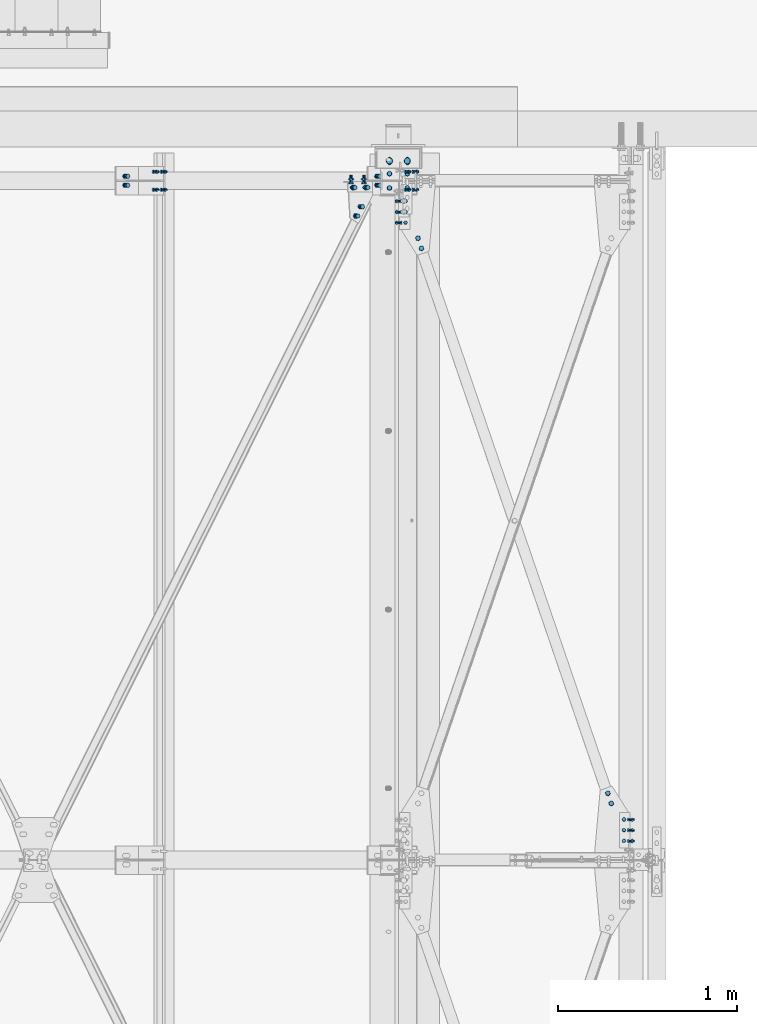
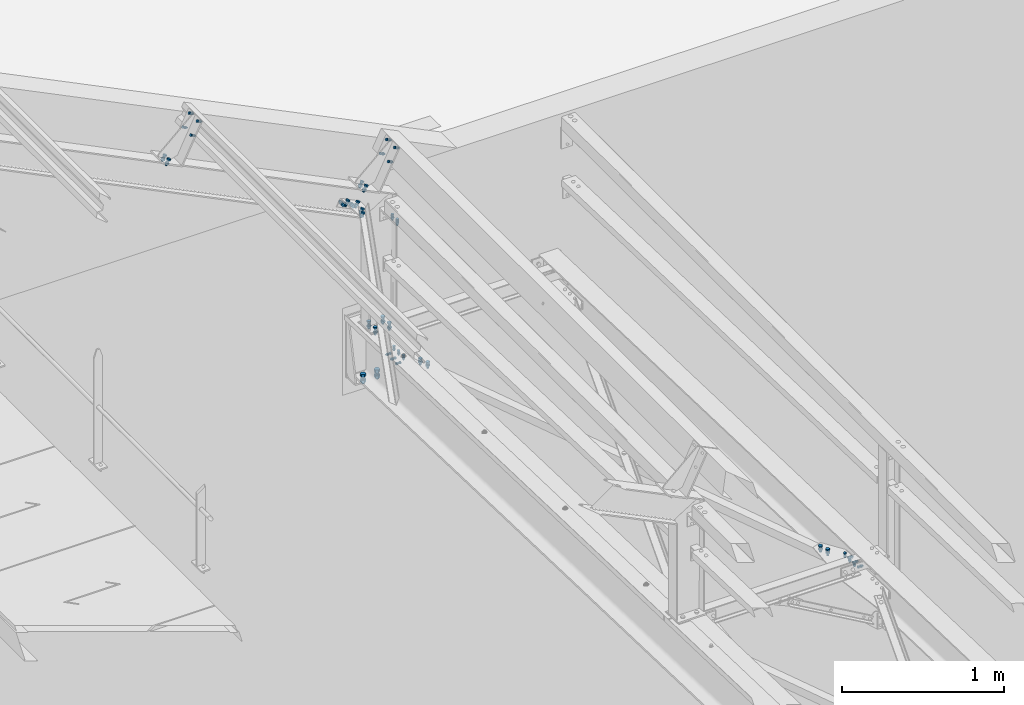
# One storey, part 197 of 362: 16 mechanical fasteners.
"""IFC2X3 building model written with IfcOpenShell, lengths in millimetres."""

import ifcopenshell
import ifcopenshell.guid

model = None  # the IFC model being written
_history = None  # IfcOwnerHistory: only IFC2X3 demands one
_inside = {}  # id of a spatial element -> (the spatial element, [elements in it])
_under = {}  # id of a project, library or spatial element -> (it, [spatial elements below it])
_declared = {}  # id of a project -> (the project, [libraries it declares])
_typed = {}  # id of a type object -> (the type object, [elements of that type])
_made_of = {}  # id of a material, layer set ... -> (it, [elements and type objects made of it])


def new_model(schema):
    """Start an empty IFC model of exactly this schema.

    Asked for "IFC4X3", IfcOpenShell would pick the latest addendum, in which some entities
    have other attributes; the version numbers below select the first issue.
    IFC2X3 requires an IfcOwnerHistory on every rooted entity: one is made here for all.
    """
    global model, _history
    if schema == "IFC4X3":
        model = ifcopenshell.file(schema_version=(4, 3, 0, 0))
    else:
        model = ifcopenshell.file(schema=schema)
    _inside.clear()
    _under.clear()
    _declared.clear()
    _typed.clear()
    _made_of.clear()
    _history = None
    if model.schema == "IFC2X3":
        org = make("IfcOrganization", Name="unknown")
        user = make(
            "IfcPersonAndOrganization",
            ThePerson=make("IfcPerson", FamilyName="unknown"),
            TheOrganization=org,
        )
        app = make(
            "IfcApplication",
            ApplicationDeveloper=org,
            Version="unknown",
            ApplicationFullName="unknown",
            ApplicationIdentifier="unknown",
        )
        _history = make(
            "IfcOwnerHistory",
            OwningUser=user,
            OwningApplication=app,
            ChangeAction="ADDED",
            CreationDate=0,
        )
    return model


def make(cls, **values):
    """One entity of the class cls with the attributes given. An attribute that is None is left unset."""
    return model.create_entity(
        cls, **{name: value for name, value in values.items() if value is not None}
    )


def rooted(cls, **values):
    """An entity with a GlobalId (a new one), such as an element, a storey or a relation."""
    return make(cls, GlobalId=ifcopenshell.guid.new(), OwnerHistory=_history, **values)


def si_unit(unit_type, name, prefix=None):
    """IfcSIUnit, for example si_unit("LENGTHUNIT", "METRE", prefix="MILLI")."""
    return make("IfcSIUnit", UnitType=unit_type, Prefix=prefix, Name=name)


def assignment(units):
    """IfcUnitAssignment: the units of a project."""
    return None if units is None else make("IfcUnitAssignment", Units=units)


def point(xyz):
    """IfcCartesianPoint."""
    return None if xyz is None else make("IfcCartesianPoint", Coordinates=xyz)


def direction(xyz):
    """IfcDirection."""
    return None if xyz is None else make("IfcDirection", DirectionRatios=xyz)


def frame(location, z_axis=None, x_axis=None):
    """IfcAxis2Placement3D, a coordinate frame: its origin and axes. An axis left out is left unset."""
    return make(
        "IfcAxis2Placement3D",
        Location=point(location),
        Axis=direction(z_axis),
        RefDirection=direction(x_axis),
    )


def frame_2d(location, x_axis=None):
    """IfcAxis2Placement2D, a coordinate frame in the plane: its origin and x axis."""
    return make(
        "IfcAxis2Placement2D", Location=point(location), RefDirection=direction(x_axis)
    )


def origin_with_axes():
    """The frame at (0, 0, 0) with the z axis (0, 0, 1) and the x axis (1, 0, 0) written out."""
    return frame((0.0, 0.0, 0.0), z_axis=(0.0, 0.0, 1.0), x_axis=(1.0, 0.0, 0.0))


def origin_2d_with_axis():
    """The frame at (0, 0) in the plane with the x axis (1, 0) written out."""
    return frame_2d((0.0, 0.0), x_axis=(1.0, 0.0))


def place(relative_to, where):
    """IfcLocalPlacement: puts the frame where relative to a parent placement (None: the world)."""
    return make(
        "IfcLocalPlacement", PlacementRelTo=relative_to, RelativePlacement=where
    )


def context(
    kind, dimensions, precision=None, world=None, true_north=None, identifier=None
):
    """IfcGeometricRepresentationContext, for example the 3D "Model" context."""
    return make(
        "IfcGeometricRepresentationContext",
        ContextIdentifier=identifier,
        ContextType=kind,
        CoordinateSpaceDimension=dimensions,
        Precision=precision,
        WorldCoordinateSystem=world,
        TrueNorth=true_north,
    )


def subcontext(parent, identifier, kind, view, scale=None):
    """IfcGeometricRepresentationSubContext, for example "Body" below "Model"."""
    return make(
        "IfcGeometricRepresentationSubContext",
        ContextIdentifier=identifier,
        ContextType=kind,
        ParentContext=parent,
        TargetScale=scale,
        TargetView=view,
    )


def project(units=None, contexts=None):
    """IfcProject with its units and contexts."""
    return rooted(
        "IfcProject",
        Name="project",
        RepresentationContexts=contexts,
        UnitsInContext=assignment(units),
    )


def spatial(cls, under=None, at=None, **own):
    """A site, building, storey or space (cls), placed at a placement, below another one or the project."""
    s = rooted(cls, ObjectPlacement=at, **own)
    if under is not None:
        _under.setdefault(under.id(), (under, []))[1].append(s)
    return s


def polyline(points):
    """IfcPolyline through the points."""
    return make("IfcPolyline", Points=[point(p) for p in points])


def circle_curve(where, radius):
    """IfcCircle in the frame where."""
    return make("IfcCircle", Position=where, Radius=radius)


def parameter(value):
    """IfcParameterValue: where a trimmed curve begins or ends, as a parameter of its basis curve."""
    return model.create_entity("IfcParameterValue", value)


def trimmed(basis, trim1, trim2, sense, master):
    """IfcTrimmedCurve: the piece of a basis curve between two trims."""
    return make(
        "IfcTrimmedCurve",
        BasisCurve=basis,
        Trim1=trim1,
        Trim2=trim2,
        SenseAgreement=sense,
        MasterRepresentation=master,
    )


def segment(curve, same_sense, transition):
    """IfcCompositeCurveSegment."""
    return make(
        "IfcCompositeCurveSegment",
        Transition=transition,
        SameSense=same_sense,
        ParentCurve=curve,
    )


def composite_curve(segments, self_intersect=None):
    """IfcCompositeCurve: segments joined end to end."""
    return make("IfcCompositeCurve", Segments=segments, SelfIntersect=self_intersect)


def profile(cls, at=None, kind="AREA", **sizes):
    """A parametric profile (cls). Its sizes go by their IFC names, for example OverallWidth=200.0."""
    return make(cls, ProfileType=kind, Position=at, **sizes)


def circle(**sizes):
    """IfcCircleProfileDef."""
    return profile("IfcCircleProfileDef", **sizes)


def outline(outer, holes=None, kind="AREA"):
    """IfcArbitraryClosedProfileDef: a profile drawn as a closed curve; with holes, ...WithVoids."""
    if holes is None:
        return make("IfcArbitraryClosedProfileDef", ProfileType=kind, OuterCurve=outer)
    return make(
        "IfcArbitraryProfileDefWithVoids",
        ProfileType=kind,
        OuterCurve=outer,
        InnerCurves=holes,
    )


def extrude(swept, where, along, depth):
    """IfcExtrudedAreaSolid: the profile swept, set in the frame where, extruded along a direction by depth."""
    return make(
        "IfcExtrudedAreaSolid",
        SweptArea=swept,
        Position=where,
        ExtrudedDirection=direction(along),
        Depth=depth,
    )


def shape(context_of_items, identifier, shape_type, items):
    """IfcShapeRepresentation: the items that make up one representation, for example the "Body"."""
    return make(
        "IfcShapeRepresentation",
        ContextOfItems=context_of_items,
        RepresentationIdentifier=identifier,
        RepresentationType=shape_type,
        Items=items,
    )


def source(mapping_origin, context_of_items, identifier, shape_type, items):
    """IfcRepresentationMap: a shape defined once, which mapped items show again and again."""
    return make(
        "IfcRepresentationMap",
        MappingOrigin=mapping_origin,
        MappedRepresentation=shape(context_of_items, identifier, shape_type, items),
    )


def transform(
    local_origin,
    x_axis=None,
    y_axis=None,
    z_axis=None,
    scale=None,
    scale2=None,
    scale3=None,
    uniform=True,
):
    """IfcCartesianTransformationOperator3D, or its non-uniform kind. x_axis, y_axis, z_axis: its Axis1, 2, 3."""
    if uniform:
        return make(
            "IfcCartesianTransformationOperator3D",
            Axis1=direction(x_axis),
            Axis2=direction(y_axis),
            LocalOrigin=point(local_origin),
            Scale=scale,
            Axis3=direction(z_axis),
        )
    return make(
        "IfcCartesianTransformationOperator3DnonUniform",
        Axis1=direction(x_axis),
        Axis2=direction(y_axis),
        LocalOrigin=point(local_origin),
        Scale=scale,
        Axis3=direction(z_axis),
        Scale2=scale2,
        Scale3=scale3,
    )


def mapped(mapping_source, mapping_target):
    """IfcMappedItem: shows the shape of a source again, moved by a transform."""
    return make(
        "IfcMappedItem", MappingSource=mapping_source, MappingTarget=mapping_target
    )


def material(Name=None, Category=None):
    """IfcMaterial."""
    return make("IfcMaterial", Name=Name, Category=Category)


def made_of(thing, what):
    """Note that an element or type object is made of a material, layer set ...; save() writes the relation."""
    if what is not None:
        _made_of.setdefault(what.id(), (what, []))[1].append(thing)
    return thing


def type_object(cls, material=None, **own):
    """A type object (cls), such as IfcWallType, which elements share."""
    return made_of(rooted(cls, **own), material)


def element(
    cls,
    number,
    at=None,
    inside=None,
    cuts=None,
    type_object=None,
    material=None,
    context=None,
    identifier="Body",
    shape_type=None,
    held_by="IfcProductDefinitionShape",
    body=None,
    shapes=None,
    **own,
):
    """One element of the class cls, such as IfcWall. Its Tag is "e" and its number.

    at: its placement. inside: the storey or other place that contains it. cuts: it is an
    opening in that element (IfcRelVoidsElement). A single representation is given by context,
    identifier, shape_type and body (its items); several are given by shapes. held_by: the class
    of the entity that holds the representations. save() writes the other relations.
    """
    e = rooted(cls, Tag="e%d" % number, ObjectPlacement=at, **own)
    if body is not None:
        shapes = [shape(context, identifier, shape_type, body)]
    if shapes is not None:
        e.Representation = make(held_by, Representations=shapes)
    if inside is not None:
        _inside.setdefault(inside.id(), (inside, []))[1].append(e)
    if cuts is not None:
        rooted(
            "IfcRelVoidsElement", RelatingBuildingElement=cuts, RelatedOpeningElement=e
        )
    if type_object is not None:
        _typed.setdefault(type_object.id(), (type_object, []))[1].append(e)
    return made_of(e, material)


def aggregate(whole, parts):
    """IfcRelAggregates: a whole, such as a stair, and the parts it consists of."""
    return rooted("IfcRelAggregates", RelatingObject=whole, RelatedObjects=parts)


def save(model, path):
    """Write the relations noted so far, then the file.

    IfcRelAggregates (storeys below a building ...), IfcRelContainedInSpatialStructure (elements
    in a storey), IfcRelDefinesByType, IfcRelAssociatesMaterial and IfcRelDeclares: one each for
    every whole, place, type object, material and project.
    """
    for whole, parts in _under.values():
        aggregate(whole, parts)
    for where, things in _inside.values():
        rooted(
            "IfcRelContainedInSpatialStructure",
            RelatedElements=things,
            RelatingStructure=where,
        )
    for kind, things in _typed.values():
        rooted("IfcRelDefinesByType", RelatedObjects=things, RelatingType=kind)
    for what, things in _made_of.values():
        rooted("IfcRelAssociatesMaterial", RelatedObjects=things, RelatingMaterial=what)
    for by, libraries in _declared.values():
        rooted("IfcRelDeclares", RelatingContext=by, RelatedDefinitions=libraries)
    model.write(path)


model = new_model("IFC2X3")

# Units and contexts
model_context = context("Model", 3, precision=1e-05, world=origin_with_axes())
body_context = subcontext(model_context, "Body", "Model", "MODEL_VIEW")
ifc_project = project(units=[si_unit("LENGTHUNIT", "METRE", prefix="MILLI"), si_unit("AREAUNIT", "SQUARE_METRE"), si_unit("VOLUMEUNIT", "CUBIC_METRE"), si_unit("MASSUNIT", "GRAM", prefix="KILO"), si_unit("TIMEUNIT", "SECOND"), si_unit("PLANEANGLEUNIT", "RADIAN"), si_unit("SOLIDANGLEUNIT", "STERADIAN"), si_unit("THERMODYNAMICTEMPERATUREUNIT", "DEGREE_CELSIUS"), si_unit("LUMINOUSINTENSITYUNIT", "LUMEN")], contexts=[model_context])

# Site, building, storey
site_placement = place(None, origin_with_axes())
site = spatial("IfcSite", under=ifc_project, at=site_placement, Name="Undefined", CompositionType="ELEMENT")
building_placement = place(site_placement, origin_with_axes())
building = spatial("IfcBuilding", under=site, at=building_placement, Name="Undefined", CompositionType="ELEMENT")
storey_placement = place(building_placement, origin_with_axes())
storey = spatial("IfcBuildingStorey", under=building, at=storey_placement, Name="Undefined", CompositionType="ELEMENT", Elevation=0.0)

# Mechanical fasteners
ifc_material_1 = material(Name="#_SB-8.8-ZINGUE")
mechanical_fastener_type = type_object("IfcMechanicalFastenerType", Name="Bolt assembly")
shared_shape_1 = source(origin_with_axes(), body_context, "Body", "SweptSolid", [
    extrude(circle(Radius=9.0, at=origin_2d_with_axis()), frame((0.0, 0.1, 0.0), z_axis=(0.0, 1.0, 0.0), x_axis=(1.0, 0.0, 0.0)), (0.0, 0.0, 1.0), 6.0),
    extrude(circle(Radius=9.0, at=origin_2d_with_axis()), frame((0.0, 5.90002706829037, 0.0), z_axis=(0.0, 1.0, 0.0), x_axis=(1.0, 0.0, 0.0)), (0.0, 0.0, 1.0), 6.1),
    extrude(outline(polyline([(13.85640646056, 0.0), (6.92820323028, 12.0000000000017), (-6.92820323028, 12.0000000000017), (-13.85640646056, 0.0), (-6.92820323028, -12.0000000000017), (6.92820323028, -12.0000000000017), (13.85640646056, 0.0)])), frame((0.0, -10.5600019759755, 0.0), z_axis=(0.0, 1.0, 0.0), x_axis=(1.0, 0.0, 0.0)), (0.0, 0.0, 1.0), 10.56),
    extrude(circle(Radius=8.0, at=origin_2d_with_axis()), frame((0.0, 0.0, 0.0), z_axis=(0.0, 1.0, 0.0), x_axis=(1.0, 0.0, 0.0)), (0.0, 0.0, 1.0), 40.0),
    extrude(outline(polyline([(15.3344231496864, 0.0), (7.6672115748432, 13.2800000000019), (-7.6672115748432, 13.2800000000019), (-15.3344231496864, 0.0), (-7.6672115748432, -13.2800000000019), (7.6672115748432, -13.2800000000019), (15.3344231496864, 0.0)])), frame((0.0, 12.0000270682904, 0.0), z_axis=(0.0, 1.0, 0.0), x_axis=(1.0, 0.0, 0.0)), (0.0, 0.0, 1.0), 10.56),
])
mechanical_fastener_1_placement = place(storey_placement, frame((38119.1072879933, 15162.0004842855, 8591.42363995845), z_axis=(-0.897398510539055, -1.29999898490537e-08, 0.441220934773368), x_axis=(0.0, 1.0, 0.0)))
element("IfcMechanicalFastener", 1, at=mechanical_fastener_1_placement, inside=storey, type_object=mechanical_fastener_type, material=ifc_material_1, Name="Bolt assembly", NominalDiameter=16.0, NominalLength=40.0, context=body_context, shape_type="MappedRepresentation", body=[
    mapped(shared_shape_1, transform((0.0, 0.0, -40.0))),
    mapped(shared_shape_1, transform((0.0, 0.0, 40.0))),
])
ifc_material_2 = material(Name="8.8-SB-ZINGUE")
shared_shape_2 = source(origin_with_axes(), body_context, "Body", "SweptSolid", [
    extrude(circle(Radius=7.0, at=origin_2d_with_axis()), frame((0.0, -0.100011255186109, 0.0), z_axis=(0.0, 1.0, 0.0), x_axis=(1.0, 0.0, 0.0)), (0.0, 0.0, 1.0), 6.1),
    extrude(circle(Radius=7.0, at=origin_2d_with_axis()), frame((0.0, -5.9000361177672, 0.0), z_axis=(0.0, 1.0, 0.0), x_axis=(1.0, 0.0, 0.0)), (0.0, 0.0, 1.0), 6.0),
    extrude(outline(polyline([(10.39230484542, 0.0), (5.19615242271, 9.00000000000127), (-5.19615242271, 9.00000000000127), (-10.39230484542, 0.0), (-5.19615242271, -9.00000000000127), (5.19615242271, -9.00000000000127), (10.39230484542, 0.0)])), frame((0.0, -13.9200361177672, 0.0), z_axis=(0.0, 1.0, 0.0), x_axis=(1.0, 0.0, 0.0)), (0.0, 0.0, 1.0), 7.92),
    extrude(circle(Radius=6.0, at=origin_2d_with_axis()), frame((0.0, -6.00003611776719, 0.0), z_axis=(0.0, 1.0, 0.0), x_axis=(1.0, 0.0, 0.0)), (0.0, 0.0, 1.0), 30.0),
    extrude(outline(polyline([(11.5008173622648, 0.0), (5.7504086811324, 9.96000000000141), (-5.7504086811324, 9.96000000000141), (-11.5008173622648, 0.0), (-5.7504086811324, -9.96000000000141), (5.7504086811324, -9.96000000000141), (11.5008173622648, 0.0)])), frame((0.0, 6.0, 0.0), z_axis=(0.0, 1.0, 0.0), x_axis=(1.0, 0.0, 0.0)), (0.0, 0.0, 1.0), 7.92),
])
mechanical_fastener_2_placement = place(storey_placement, frame((38370.0, 15026.1261174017, 7451.72274157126), z_axis=(0.0, -0.999506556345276, 0.031410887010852), x_axis=(-1.0, 0.0, 0.0)))
element("IfcMechanicalFastener", 2, at=mechanical_fastener_2_placement, inside=storey, type_object=mechanical_fastener_type, material=ifc_material_2, Name="Bolt assembly", NominalDiameter=12.0, NominalLength=30.0, context=body_context, shape_type="MappedRepresentation", body=[
    mapped(shared_shape_2, transform((0.0, 0.0, -60.0))),
    mapped(shared_shape_2, transform((0.0, 0.0, 0.0))),
    mapped(shared_shape_2, transform((0.0, 0.0, 60.0))),
])
shared_shape_3 = source(origin_with_axes(), body_context, "Body", "SweptSolid", [
    extrude(circle(Radius=9.0, at=origin_2d_with_axis()), frame((0.0, -0.0999426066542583, 0.0), z_axis=(0.0, 1.0, 0.0), x_axis=(1.0, 0.0, 0.0)), (0.0, 0.0, 1.0), 8.6),
    extrude(circle(Radius=9.0, at=origin_2d_with_axis()), frame((0.0, -9.9, 0.0), z_axis=(0.0, 1.0, 0.0), x_axis=(1.0, 0.0, 0.0)), (0.0, 0.0, 1.0), 10.0),
    extrude(outline(polyline([(13.85640646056, 0.0), (6.92820323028, 12.0000000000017), (-6.92820323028, 12.0000000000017), (-13.85640646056, 0.0), (-6.92820323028, -12.0000000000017), (6.92820323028, -12.0000000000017), (13.85640646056, 0.0)])), frame((0.0, -20.5600000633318, 0.0), z_axis=(0.0, 1.0, 0.0), x_axis=(1.0, 0.0, 0.0)), (0.0, 0.0, 1.0), 10.56),
    extrude(circle(Radius=8.0, at=origin_2d_with_axis()), frame((0.0, -10.0000010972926, 0.0), z_axis=(0.0, 1.0, 0.0), x_axis=(1.0, 0.0, 0.0)), (0.0, 0.0, 1.0), 40.0),
    extrude(outline(polyline([(15.3344231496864, 0.0), (7.6672115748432, 13.2800000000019), (-7.6672115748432, 13.2800000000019), (-15.3344231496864, 0.0), (-7.6672115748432, -13.2800000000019), (7.6672115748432, -13.2800000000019), (15.3344231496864, 0.0)])), frame((0.0, 8.49999994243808, 0.0), z_axis=(0.0, 1.0, 0.0), x_axis=(1.0, 0.0, 0.0)), (0.0, 0.0, 1.0), 10.56),
])
for number, where, z_axis, x_axis, name in (
    (3, (38216.9694389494, 15200.0000375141, 8654.74007251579), (0.0, 1.0, 0.0), (0.897398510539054, 0.0, -0.44122093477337), "Bolt assembly"),
    (4, (36808.5190147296, 15200.0000375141, 9347.22819841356), (0.0, 1.0, 0.0), (0.897398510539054, 0.0, -0.44122093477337), "Bolt assembly"),
):
    element("IfcMechanicalFastener", number, at=place(storey_placement, frame(where, z_axis=z_axis, x_axis=x_axis)), inside=storey, type_object=mechanical_fastener_type, material=ifc_material_2, Name=name, NominalDiameter=16.0, NominalLength=40.0, context=body_context, shape_type="MappedRepresentation", body=[
        mapped(shared_shape_3, transform((0.0, 0.0, -25.0))),
        mapped(shared_shape_3, transform((0.0, 0.0, 25.0))),
    ])
shared_shape_4 = source(origin_with_axes(), body_context, "Body", "SweptSolid", [
    extrude(circle(Radius=7.0, at=origin_2d_with_axis()), frame((0.0, -0.10007666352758, 0.0), z_axis=(0.0, 1.0, 0.0), x_axis=(1.0, 0.0, 0.0)), (0.0, 0.0, 1.0), 3.1),
    extrude(circle(Radius=7.0, at=origin_2d_with_axis()), frame((0.0, -9.9, 0.0), z_axis=(0.0, 1.0, 0.0), x_axis=(1.0, 0.0, 0.0)), (0.0, 0.0, 1.0), 10.0),
    extrude(outline(polyline([(10.39230484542, 0.0), (5.19615242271, 9.00000000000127), (-5.19615242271, 9.00000000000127), (-10.39230484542, 0.0), (-5.19615242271, -9.00000000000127), (5.19615242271, -9.00000000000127), (10.39230484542, 0.0)])), frame((0.0, -17.92, 0.0), z_axis=(0.0, 1.0, 0.0), x_axis=(1.0, 0.0, 0.0)), (0.0, 0.0, 1.0), 7.92),
    extrude(circle(Radius=6.0, at=origin_2d_with_axis()), frame((0.0, -10.0000010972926, 0.0), z_axis=(0.0, 1.0, 0.0), x_axis=(1.0, 0.0, 0.0)), (0.0, 0.0, 1.0), 30.0),
    extrude(outline(polyline([(11.5008173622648, 0.0), (5.7504086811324, 9.96000000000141), (-5.7504086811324, 9.96000000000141), (-11.5008173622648, 0.0), (-5.7504086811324, -9.96000000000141), (5.7504086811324, -9.96000000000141), (11.5008173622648, 0.0)])), frame((0.0, 2.99993177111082, 0.0), z_axis=(0.0, 1.0, 0.0), x_axis=(1.0, 0.0, 0.0)), (0.0, 0.0, 1.0), 7.92),
])
mechanical_fastener_3_placement = place(storey_placement, frame((38381.4177264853, 15200.0000596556, 8807.89603222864), z_axis=(0.0, 1.0, 0.0), x_axis=(0.44122107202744, 0.0, 0.89739844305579)))
element("IfcMechanicalFastener", 5, at=mechanical_fastener_3_placement, inside=storey, type_object=mechanical_fastener_type, material=ifc_material_2, Name="Bolt assembly", NominalDiameter=12.0, NominalLength=30.0, context=body_context, shape_type="MappedRepresentation", body=[
    mapped(shared_shape_4, transform((0.0, 0.0, -50.0))),
    mapped(shared_shape_4, transform((100.0, 0.0, -50.0))),
    mapped(shared_shape_4, transform((0.0, 0.0, 50.0))),
    mapped(shared_shape_4, transform((100.0, 0.0, 50.0))),
])
shared_shape_5 = source(origin_with_axes(), body_context, "Body", "SweptSolid", [
    extrude(circle(Radius=7.0, at=origin_2d_with_axis()), frame((0.0, -0.10007666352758, 0.0), z_axis=(0.0, 1.0, 0.0), x_axis=(1.0, 0.0, 0.0)), (0.0, 0.0, 1.0), 1.6),
    extrude(circle(Radius=7.0, at=origin_2d_with_axis()), frame((0.0, -9.9, 0.0), z_axis=(0.0, 1.0, 0.0), x_axis=(1.0, 0.0, 0.0)), (0.0, 0.0, 1.0), 10.0),
    extrude(outline(polyline([(10.39230484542, 0.0), (5.19615242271, 9.00000000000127), (-5.19615242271, 9.00000000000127), (-10.39230484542, 0.0), (-5.19615242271, -9.00000000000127), (5.19615242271, -9.00000000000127), (10.39230484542, 0.0)])), frame((0.0, -17.92, 0.0), z_axis=(0.0, 1.0, 0.0), x_axis=(1.0, 0.0, 0.0)), (0.0, 0.0, 1.0), 7.92),
    extrude(circle(Radius=6.0, at=origin_2d_with_axis()), frame((0.0, -10.0000010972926, 0.0), z_axis=(0.0, 1.0, 0.0), x_axis=(1.0, 0.0, 0.0)), (0.0, 0.0, 1.0), 30.0),
    extrude(outline(polyline([(11.5008173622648, 0.0), (5.7504086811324, 9.96000000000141), (-5.7504086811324, 9.96000000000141), (-11.5008173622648, 0.0), (-5.7504086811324, -9.96000000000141), (5.7504086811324, -9.96000000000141), (11.5008173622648, 0.0)])), frame((0.0, 1.49996853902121, 0.0), z_axis=(0.0, 1.0, 0.0), x_axis=(1.0, 0.0, 0.0)), (0.0, 0.0, 1.0), 7.92),
])
mechanical_fastener_4_placement = place(storey_placement, frame((36972.5260811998, 15200.0000596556, 9499.48675968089), z_axis=(0.0, 1.0, 0.0), x_axis=(0.44122107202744, 0.0, 0.89739844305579)))
element("IfcMechanicalFastener", 6, at=mechanical_fastener_4_placement, inside=storey, type_object=mechanical_fastener_type, material=ifc_material_2, Name="Bolt assembly", NominalDiameter=12.0, NominalLength=30.0, context=body_context, shape_type="MappedRepresentation", body=[
    mapped(shared_shape_5, transform((0.0, 0.0, -50.0))),
    mapped(shared_shape_5, transform((102.00000000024, -2.51020537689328e-10, -50.0))),
    mapped(shared_shape_5, transform((0.0, 0.0, 50.0))),
    mapped(shared_shape_5, transform((102.00000000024, -2.51020537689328e-10, 50.0))),
])
shared_shape_6 = source(origin_with_axes(), body_context, "Body", "SweptSolid", [
    extrude(circle(Radius=9.0, at=origin_2d_with_axis()), frame((0.0, -4.89881472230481, 0.0), z_axis=(0.0, 1.0, 0.0), x_axis=(1.0, 0.0, 0.0)), (0.0, 0.0, 1.0), 5.0),
    extrude(circle(Radius=9.0, at=origin_2d_with_axis()), frame((0.0, -0.100011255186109, 0.0), z_axis=(0.0, 1.0, 0.0), x_axis=(1.0, 0.0, 0.0)), (0.0, 0.0, 1.0), 6.1),
    extrude(outline(polyline([(13.85640646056, 0.0), (6.92820323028, 12.0000000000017), (-6.92820323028, 12.0000000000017), (-13.85640646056, 0.0), (-6.92820323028, -12.0000000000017), (6.92820323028, -12.0000000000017), (13.85640646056, 0.0)])), frame((0.0, -15.5588147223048, 0.0), z_axis=(0.0, 1.0, 0.0), x_axis=(1.0, 0.0, 0.0)), (0.0, 0.0, 1.0), 10.56),
    extrude(circle(Radius=8.0, at=origin_2d_with_axis()), frame((0.0, -4.99881472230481, 0.0), z_axis=(0.0, 1.0, 0.0), x_axis=(1.0, 0.0, 0.0)), (0.0, 0.0, 1.0), 30.0),
    extrude(outline(polyline([(15.3344231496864, 0.0), (7.6672115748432, 13.2800000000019), (-7.6672115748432, 13.2800000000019), (-15.3344231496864, 0.0), (-7.6672115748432, -13.2800000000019), (7.6672115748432, -13.2800000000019), (15.3344231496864, 0.0)])), frame((0.0, 6.0, 0.0), z_axis=(0.0, 1.0, 0.0), x_axis=(1.0, 0.0, 0.0)), (0.0, 0.0, 1.0), 10.56),
])
mechanical_fastener_5_placement = place(storey_placement, frame((38123.2125866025, 15054.9111722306, 8589.40520285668), z_axis=(0.784869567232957, -0.484835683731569, -0.385893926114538), x_axis=(-0.43509087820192, -0.874605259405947, 0.213919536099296)))
element("IfcMechanicalFastener", 7, at=mechanical_fastener_5_placement, inside=storey, type_object=mechanical_fastener_type, material=ifc_material_1, Name="Bolt assembly", NominalDiameter=16.0, NominalLength=30.0, context=body_context, shape_type="MappedRepresentation", body=[
    mapped(shared_shape_6, transform((0.0, 0.0, 0.0))),
    mapped(shared_shape_6, transform((60.0, 0.0, 0.0))),
])
shared_shape_7 = source(origin_with_axes(), body_context, "Body", "SweptSolid", [
    extrude(circle(Radius=9.0, at=origin_2d_with_axis()), frame((0.0, -2.90038499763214, 0.0), z_axis=(0.0, 1.0, 0.0), x_axis=(1.0, 0.0, 0.0)), (0.0, 0.0, 1.0), 5.7),
    extrude(circle(Radius=9.0, at=origin_2d_with_axis()), frame((0.0, -8.89990143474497, 0.0), z_axis=(0.0, 1.0, 0.0), x_axis=(1.0, 0.0, 0.0)), (0.0, 0.0, 1.0), 6.0),
    extrude(outline(polyline([(13.85640646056, 0.0), (6.92820323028, 12.0000000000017), (-6.92820323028, 12.0000000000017), (-13.85640646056, 0.0), (-6.92820323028, -12.0000000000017), (6.92820323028, -12.0000000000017), (13.85640646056, 0.0)])), frame((0.0, -19.559901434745, 0.0), z_axis=(0.0, 1.0, 0.0), x_axis=(1.0, 0.0, 0.0)), (0.0, 0.0, 1.0), 10.56),
    extrude(circle(Radius=8.0, at=origin_2d_with_axis()), frame((0.0, -8.99990143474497, 0.0), z_axis=(0.0, 1.0, 0.0), x_axis=(1.0, 0.0, 0.0)), (0.0, 0.0, 1.0), 40.0),
    extrude(outline(polyline([(15.3344231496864, 0.0), (7.6672115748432, 13.2800000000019), (-7.6672115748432, 13.2800000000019), (-15.3344231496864, 0.0), (-7.6672115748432, -13.2800000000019), (7.6672115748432, -13.2800000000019), (15.3344231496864, 0.0)])), frame((0.0, 2.79961490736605, 0.0), z_axis=(0.0, 1.0, 0.0), x_axis=(1.0, 0.0, 0.0)), (0.0, 0.0, 1.0), 10.56),
])
mechanical_fastener_6_placement = place(storey_placement, frame((38101.0173016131, 15200.000384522, 8554.63022811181), z_axis=(-0.897398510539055, -1.29999898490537e-08, 0.441220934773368), x_axis=(0.44122027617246, 6.00001450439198e-09, 0.897398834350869)))
element("IfcMechanicalFastener", 8, at=mechanical_fastener_6_placement, inside=storey, type_object=mechanical_fastener_type, material=ifc_material_1, Name="Bolt assembly", NominalDiameter=16.0, NominalLength=40.0, context=body_context, shape_type="MappedRepresentation", body=[
    mapped(shared_shape_7, transform((0.0, 0.0, -40.0))),
    mapped(shared_shape_7, transform((0.0, 0.0, 40.0))),
])
shared_shape_8 = source(origin_with_axes(), body_context, "Body", "SweptSolid", [
    extrude(circle(Radius=7.0, at=origin_2d_with_axis()), frame((0.0, -3.89999843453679, 0.0), z_axis=(0.0, 1.0, 0.0), x_axis=(1.0, 0.0, 0.0)), (0.0, 0.0, 1.0), 4.0),
    extrude(outline(composite_curve([segment(polyline([(-7.0, 7.0), (7.0, 7.0)]), True, "CONTINUOUS"), segment(trimmed(circle_curve(frame_2d((7.0, 0.0), x_axis=(0.0, 1.0)), 7.0), [parameter(0.0)], [parameter(3.14159265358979)], False, "PARAMETER"), True, "CONTINUOUS"), segment(polyline([(7.0, -7.0), (-7.0, -7.0)]), True, "CONTINUOUS"), segment(trimmed(circle_curve(frame_2d((-7.0, 0.0), x_axis=(0.0, -1.0)), 7.0), [parameter(0.0)], [parameter(3.14159265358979)], False, "PARAMETER"), True, "DISCONTINUOUS")], self_intersect=False)), frame((0.0, -0.100011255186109, 0.0), z_axis=(0.0, 1.0, 0.0), x_axis=(1.0, 0.0, 0.0)), (0.0, 0.0, 1.0), 10.1),
    extrude(outline(polyline([(10.39230484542, 0.0), (5.19615242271, 9.00000000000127), (-5.19615242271, 9.00000000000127), (-10.39230484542, 0.0), (-5.19615242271, -9.00000000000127), (5.19615242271, -9.00000000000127), (10.39230484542, 0.0)])), frame((0.0, -11.9199984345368, 0.0), z_axis=(0.0, 1.0, 0.0), x_axis=(1.0, 0.0, 0.0)), (0.0, 0.0, 1.0), 7.92),
    extrude(circle(Radius=6.0, at=origin_2d_with_axis()), frame((0.0, -3.99999923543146, 0.0), z_axis=(0.0, 1.0, 0.0), x_axis=(1.0, 0.0, 0.0)), (0.0, 0.0, 1.0), 40.0),
    extrude(circle(Radius=10.8, at=origin_2d_with_axis()), frame((0.0, 10.0000000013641, 0.0), z_axis=(0.0, 1.0, 0.0), x_axis=(1.0, 0.0, 0.0)), (0.0, 0.0, 1.0), 3.96),
    extrude(outline(polyline([(11.5008173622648, 0.0), (5.7504086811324, 9.96000000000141), (-5.7504086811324, 9.96000000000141), (-11.5008173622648, 0.0), (-5.7504086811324, -9.96000000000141), (5.7504086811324, -9.96000000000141), (11.5008173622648, 0.0)])), frame((0.0, 13.96, 0.0), z_axis=(0.0, 1.0, 0.0), x_axis=(1.0, 0.0, 0.0)), (0.0, 0.0, 1.0), 7.92),
])
mechanical_fastener_7_placement = place(storey_placement, frame((38360.0, 15026.5, 8450.0), z_axis=(-1.0, 0.0, 0.0), x_axis=(0.0, 1.0, 0.0)))
element("IfcMechanicalFastener", 9, at=mechanical_fastener_7_placement, inside=storey, type_object=mechanical_fastener_type, material=ifc_material_2, Name="Bolt assembly", NominalDiameter=12.0, NominalLength=40.0, context=body_context, shape_type="MappedRepresentation", body=[
    mapped(shared_shape_8, transform((0.0, 0.0, 0.0))),
    mapped(shared_shape_8, transform((60.0, 0.0, 0.0))),
])
shared_shape_9 = source(origin_with_axes(), body_context, "Body", "SweptSolid", [
    extrude(circle(Radius=9.0, at=origin_2d_with_axis()), frame((0.0, -0.100011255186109, 0.0), z_axis=(0.0, 1.0, 0.0), x_axis=(1.0, 0.0, 0.0)), (0.0, 0.0, 1.0), 14.7),
    extrude(circle(Radius=9.0, at=origin_2d_with_axis()), frame((0.0, -9.9, 0.0), z_axis=(0.0, 1.0, 0.0), x_axis=(1.0, 0.0, 0.0)), (0.0, 0.0, 1.0), 10.0),
    extrude(outline(polyline([(13.85640646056, 0.0), (6.92820323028, 12.0000000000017), (-6.92820323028, 12.0000000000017), (-13.85640646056, 0.0), (-6.92820323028, -12.0000000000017), (6.92820323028, -12.0000000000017), (13.85640646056, 0.0)])), frame((0.0, -20.5600000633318, 0.0), z_axis=(0.0, 1.0, 0.0), x_axis=(1.0, 0.0, 0.0)), (0.0, 0.0, 1.0), 10.56),
    extrude(circle(Radius=8.0, at=origin_2d_with_axis()), frame((0.0, -10.0000010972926, 0.0), z_axis=(0.0, 1.0, 0.0), x_axis=(1.0, 0.0, 0.0)), (0.0, 0.0, 1.0), 50.0),
    extrude(outline(polyline([(15.3344231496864, 0.0), (7.6672115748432, 13.2800000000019), (-7.6672115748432, 13.2800000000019), (-15.3344231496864, 0.0), (-7.6672115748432, -13.2800000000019), (7.6672115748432, -13.2800000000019), (15.3344231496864, 0.0)])), frame((0.0, 14.5999903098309, 0.0), z_axis=(0.0, 1.0, 0.0), x_axis=(1.0, 0.0, 0.0)), (0.0, 0.0, 1.0), 10.56),
])
mechanical_fastener_8_placement = place(storey_placement, frame((38330.0, 15159.7053134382, 7573.58709801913), z_axis=(-1.0, 0.0, 0.0), x_axis=(3.14103090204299e-11, 0.999506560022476, -0.0314107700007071)))
element("IfcMechanicalFastener", 10, at=mechanical_fastener_8_placement, inside=storey, type_object=mechanical_fastener_type, material=ifc_material_2, Name="Bolt assembly", NominalDiameter=16.0, NominalLength=50.0, context=body_context, shape_type="MappedRepresentation", body=[
    mapped(shared_shape_9, transform((0.0, 0.0, -50.0))),
    mapped(shared_shape_9, transform((79.9999999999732, 9.09494701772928e-13, -50.0))),
    mapped(shared_shape_9, transform((0.0, 0.0, 50.0))),
    mapped(shared_shape_9, transform((79.9999999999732, 9.09494701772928e-13, 50.0))),
])
shared_shape_10 = source(origin_with_axes(), body_context, "Body", "SweptSolid", [
    extrude(circle(Radius=9.0, at=origin_2d_with_axis()), frame((0.0, 2.89914713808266, 0.0), z_axis=(0.0, 1.0, 0.0), x_axis=(1.0, 0.0, 0.0)), (0.0, 0.0, 1.0), 6.1),
    extrude(circle(Radius=9.0, at=origin_2d_with_axis()), frame((0.0, -2.9, 0.0), z_axis=(0.0, 1.0, 0.0), x_axis=(1.0, 0.0, 0.0)), (0.0, 0.0, 1.0), 6.0),
    extrude(outline(polyline([(13.85640646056, 0.0), (6.92820323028, 12.0000000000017), (-6.92820323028, 12.0000000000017), (-13.85640646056, 0.0), (-6.92820323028, -12.0000000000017), (6.92820323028, -12.0000000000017), (13.85640646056, 0.0)])), frame((0.0, -13.56, 0.0), z_axis=(0.0, 1.0, 0.0), x_axis=(1.0, 0.0, 0.0)), (0.0, 0.0, 1.0), 10.56),
    extrude(circle(Radius=8.0, at=origin_2d_with_axis()), frame((0.0, -2.99999932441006, 0.0), z_axis=(0.0, 1.0, 0.0), x_axis=(1.0, 0.0, 0.0)), (0.0, 0.0, 1.0), 40.0),
    extrude(outline(polyline([(15.3344231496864, 0.0), (7.6672115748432, 13.2800000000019), (-7.6672115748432, 13.2800000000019), (-15.3344231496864, 0.0), (-7.6672115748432, -13.2800000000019), (7.6672115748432, -13.2800000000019), (15.3344231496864, 0.0)])), frame((0.0, 8.9991471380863, 0.0), z_axis=(0.0, 1.0, 0.0), x_axis=(1.0, 0.0, 0.0)), (0.0, 0.0, 1.0), 10.56),
])
mechanical_fastener_9_placement = place(storey_placement, frame((38439.2699583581, 14878.615332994, 7459.35995280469), z_axis=(0.946212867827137, 0.323385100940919, -0.0101629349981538), x_axis=(0.323544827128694, -0.94574594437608, 0.0297212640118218)))
element("IfcMechanicalFastener", 11, at=mechanical_fastener_9_placement, inside=storey, type_object=mechanical_fastener_type, material=ifc_material_2, Name="Bolt assembly", NominalDiameter=16.0, NominalLength=40.0, context=body_context, shape_type="MappedRepresentation", body=[
    mapped(shared_shape_10, transform((0.0, 0.0, 0.0))),
    mapped(shared_shape_10, transform((60.0, 0.0, 0.0))),
])
shared_shape_11 = source(origin_with_axes(), body_context, "Body", "SweptSolid", [
    extrude(circle(Radius=9.0, at=origin_2d_with_axis()), frame((0.0, 2.90311224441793, 0.0), z_axis=(0.0, 1.0, 0.0), x_axis=(1.0, 0.0, 0.0)), (0.0, 0.0, 1.0), 6.1),
    extrude(circle(Radius=9.0, at=origin_2d_with_axis()), frame((0.0, -2.9, 0.0), z_axis=(0.0, 1.0, 0.0), x_axis=(1.0, 0.0, 0.0)), (0.0, 0.0, 1.0), 6.0),
    extrude(outline(polyline([(13.85640646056, 0.0), (6.92820323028, 12.0000000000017), (-6.92820323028, 12.0000000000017), (-13.85640646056, 0.0), (-6.92820323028, -12.0000000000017), (6.92820323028, -12.0000000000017), (13.85640646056, 0.0)])), frame((0.0, -13.56, 0.0), z_axis=(0.0, 1.0, 0.0), x_axis=(1.0, 0.0, 0.0)), (0.0, 0.0, 1.0), 10.56),
    extrude(circle(Radius=8.0, at=origin_2d_with_axis()), frame((0.0, -2.99999932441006, 0.0), z_axis=(0.0, 1.0, 0.0), x_axis=(1.0, 0.0, 0.0)), (0.0, 0.0, 1.0), 40.0),
    extrude(outline(polyline([(15.3344231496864, 0.0), (7.6672115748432, 13.2800000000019), (-7.6672115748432, 13.2800000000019), (-15.3344231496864, 0.0), (-7.6672115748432, -13.2800000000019), (7.6672115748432, -13.2800000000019), (15.3344231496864, 0.0)])), frame((0.0, 9.00311224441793, 0.0), z_axis=(0.0, 1.0, 0.0), x_axis=(1.0, 0.0, 0.0)), (0.0, 0.0, 1.0), 10.56),
])
mechanical_fastener_10_placement = place(storey_placement, frame((39520.7300462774, 11717.4247851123, 7558.70436775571), z_axis=(-0.94621275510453, -0.323385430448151, 0.0101629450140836), x_axis=(-0.323544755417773, 0.945745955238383, -0.0297216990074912)))
element("IfcMechanicalFastener", 12, at=mechanical_fastener_10_placement, inside=storey, type_object=mechanical_fastener_type, material=ifc_material_2, Name="Bolt assembly", NominalDiameter=16.0, NominalLength=40.0, context=body_context, shape_type="MappedRepresentation", body=[
    mapped(shared_shape_11, transform((0.0, 0.0, 0.0))),
    mapped(shared_shape_11, transform((60.0, 0.0, 0.0))),
])
shared_shape_12 = source(origin_with_axes(), body_context, "Body", "SweptSolid", [
    extrude(circle(Radius=7.0, at=origin_2d_with_axis()), frame((0.0, -0.100011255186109, 0.0), z_axis=(0.0, 1.0, 0.0), x_axis=(1.0, 0.0, 0.0)), (0.0, 0.0, 1.0), 6.1),
    extrude(circle(Radius=7.0, at=origin_2d_with_axis()), frame((0.0, -5.8999542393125, 0.0), z_axis=(0.0, 1.0, 0.0), x_axis=(1.0, 0.0, 0.0)), (0.0, 0.0, 1.0), 6.0),
    extrude(outline(polyline([(10.39230484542, 0.0), (5.19615242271, 9.00000000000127), (-5.19615242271, 9.00000000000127), (-10.39230484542, 0.0), (-5.19615242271, -9.00000000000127), (5.19615242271, -9.00000000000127), (10.39230484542, 0.0)])), frame((0.0, -13.9199542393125, 0.0), z_axis=(0.0, 1.0, 0.0), x_axis=(1.0, 0.0, 0.0)), (0.0, 0.0, 1.0), 7.92),
    extrude(circle(Radius=6.0, at=origin_2d_with_axis()), frame((0.0, -5.9999542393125, 0.0), z_axis=(0.0, 1.0, 0.0), x_axis=(1.0, 0.0, 0.0)), (0.0, 0.0, 1.0), 30.0),
    extrude(outline(polyline([(11.5008173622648, 0.0), (5.7504086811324, 9.96000000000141), (-5.7504086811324, 9.96000000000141), (-11.5008173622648, 0.0), (-5.7504086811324, -9.96000000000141), (5.7504086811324, -9.96000000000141), (11.5008173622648, 0.0)])), frame((0.0, 6.0, 0.0), z_axis=(0.0, 1.0, 0.0), x_axis=(1.0, 0.0, 0.0)), (0.0, 0.0, 1.0), 7.92),
])
mechanical_fastener_11_placement = place(storey_placement, frame((39591.4999999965, 11567.8429963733, 7560.4037035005), z_axis=(3.14103090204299e-11, 0.999506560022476, -0.0314107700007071), x_axis=(1.0, 0.0, 0.0)))
element("IfcMechanicalFastener", 13, at=mechanical_fastener_11_placement, inside=storey, type_object=mechanical_fastener_type, material=ifc_material_2, Name="Bolt assembly", NominalDiameter=12.0, NominalLength=30.0, context=body_context, shape_type="MappedRepresentation", body=[
    mapped(shared_shape_12, transform((0.0, 0.0, -60.0))),
    mapped(shared_shape_12, transform((0.0, 0.0, 0.0))),
    mapped(shared_shape_12, transform((0.0, 0.0, 60.0))),
])
shared_shape_13 = source(origin_with_axes(), body_context, "Body", "SweptSolid", [
    extrude(circle(Radius=7.0, at=origin_2d_with_axis()), frame((0.0, -3.40000002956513, 0.0), z_axis=(0.0, 1.0, 0.0), x_axis=(1.0, 0.0, 0.0)), (0.0, 0.0, 1.0), 6.7),
    extrude(circle(Radius=7.0, at=origin_2d_with_axis()), frame((0.0, -9.40000000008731, 0.0), z_axis=(0.0, 1.0, 0.0), x_axis=(1.0, 0.0, 0.0)), (0.0, 0.0, 1.0), 6.0),
    extrude(outline(polyline([(10.39230484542, 0.0), (5.19615242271, 9.00000000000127), (-5.19615242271, 9.00000000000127), (-10.39230484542, 0.0), (-5.19615242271, -9.00000000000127), (5.19615242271, -9.00000000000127), (10.39230484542, 0.0)])), frame((0.0, -17.4200000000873, 0.0), z_axis=(0.0, 1.0, 0.0), x_axis=(1.0, 0.0, 0.0)), (0.0, 0.0, 1.0), 7.92),
    extrude(circle(Radius=6.0, at=origin_2d_with_axis()), frame((0.0, -9.50000000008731, 0.0), z_axis=(0.0, 1.0, 0.0), x_axis=(1.0, 0.0, 0.0)), (0.0, 0.0, 1.0), 30.0),
    extrude(outline(polyline([(11.5008173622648, 0.0), (5.7504086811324, 9.96000000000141), (-5.7504086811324, 9.96000000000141), (-11.5008173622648, 0.0), (-5.7504086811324, -9.96000000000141), (5.7504086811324, -9.96000000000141), (11.5008173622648, 0.0)])), frame((0.0, 3.29999995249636, 0.0), z_axis=(0.0, 1.0, 0.0), x_axis=(1.0, 0.0, 0.0)), (0.0, 0.0, 1.0), 7.92),
])
mechanical_fastener_12_placement = place(storey_placement, frame((39630.0000000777, 11566.7436197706, 7525.42097387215), z_axis=(3.14103090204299e-11, 0.999506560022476, -0.0314107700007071), x_axis=(7.58071938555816e-11, 0.0314107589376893, 0.999506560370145)))
element("IfcMechanicalFastener", 14, at=mechanical_fastener_12_placement, inside=storey, type_object=mechanical_fastener_type, material=ifc_material_2, Name="Bolt assembly", NominalDiameter=12.0, NominalLength=30.0, context=body_context, shape_type="MappedRepresentation", body=[
    mapped(shared_shape_13, transform((0.0, 0.0, -60.0))),
    mapped(shared_shape_13, transform((0.0, 0.0, 0.0))),
    mapped(shared_shape_13, transform((0.0, 0.0, 60.0))),
])
shared_shape_14 = source(origin_with_axes(), body_context, "Body", "SweptSolid", [
    extrude(circle(Radius=7.0, at=origin_2d_with_axis()), frame((0.0, -4.79999988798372, 0.0), z_axis=(0.0, 1.0, 0.0), x_axis=(1.0, 0.0, 0.0)), (0.0, 0.0, 1.0), 9.5),
    extrude(circle(Radius=7.0, at=origin_2d_with_axis()), frame((0.0, -10.9000000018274, 0.0), z_axis=(0.0, 1.0, 0.0), x_axis=(1.0, 0.0, 0.0)), (0.0, 0.0, 1.0), 6.0),
    extrude(outline(polyline([(10.39230484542, 0.0), (5.19615242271, 9.00000000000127), (-5.19615242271, 9.00000000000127), (-10.39230484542, 0.0), (-5.19615242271, -9.00000000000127), (5.19615242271, -9.00000000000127), (10.39230484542, 0.0)])), frame((0.0, -18.9200000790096, 0.0), z_axis=(0.0, 1.0, 0.0), x_axis=(1.0, 0.0, 0.0)), (0.0, 0.0, 1.0), 7.92),
    extrude(circle(Radius=6.0, at=origin_2d_with_axis()), frame((0.0, -11.0000000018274, 0.0), z_axis=(0.0, 1.0, 0.0), x_axis=(1.0, 0.0, 0.0)), (0.0, 0.0, 1.0), 30.0),
    extrude(outline(polyline([(11.5008173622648, 0.0), (5.7504086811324, 9.96000000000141), (-5.7504086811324, 9.96000000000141), (-11.5008173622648, 0.0), (-5.7504086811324, -9.96000000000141), (5.7504086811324, -9.96000000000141), (11.5008173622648, 0.0)])), frame((0.0, 4.69999973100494, 0.0), z_axis=(0.0, 1.0, 0.0), x_axis=(1.0, 0.0, 0.0)), (0.0, 0.0, 1.0), 7.92),
])
mechanical_fastener_13_placement = place(storey_placement, frame((38329.9999999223, 15025.0267407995, 7416.74001193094), z_axis=(0.0, -0.999506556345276, 0.031410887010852), x_axis=(7.58071938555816e-11, 0.0314107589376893, 0.999506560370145)))
element("IfcMechanicalFastener", 15, at=mechanical_fastener_13_placement, inside=storey, type_object=mechanical_fastener_type, material=ifc_material_2, Name="Bolt assembly", NominalDiameter=12.0, NominalLength=30.0, context=body_context, shape_type="MappedRepresentation", body=[
    mapped(shared_shape_14, transform((0.0, 0.0, -60.0))),
    mapped(shared_shape_14, transform((0.0, 0.0, 0.0))),
    mapped(shared_shape_14, transform((0.0, 0.0, 60.0))),
])
ifc_material_3 = material(Name="HR10.9")
shared_shape_15 = source(origin_with_axes(), body_context, "Body", "SweptSolid", [
    extrude(circle(Radius=11.0, at=origin_2d_with_axis()), frame((0.0, -14.4998527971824, 0.0), z_axis=(0.0, 1.0, 0.0), x_axis=(1.0, 0.0, 0.0)), (0.0, 0.0, 1.0), 14.6),
    extrude(outline(composite_curve([segment(polyline([(-11.0, 11.0), (11.0, 11.0)]), True, "CONTINUOUS"), segment(trimmed(circle_curve(frame_2d((11.0, 0.0), x_axis=(0.0, 1.0)), 11.0), [parameter(0.0)], [parameter(3.14159265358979)], False, "PARAMETER"), True, "CONTINUOUS"), segment(polyline([(11.0, -11.0), (-11.0, -11.0)]), True, "CONTINUOUS"), segment(trimmed(circle_curve(frame_2d((-11.0, 0.0), x_axis=(0.0, -1.0)), 11.0), [parameter(0.0)], [parameter(3.14159265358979)], False, "PARAMETER"), True, "DISCONTINUOUS")], self_intersect=False)), frame((0.0, -0.0998569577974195, 0.0), z_axis=(0.0, 1.0, 0.0), x_axis=(1.0, 0.0, 0.0)), (0.0, 0.0, 1.0), 10.1),
    extrude(outline(polyline([(18.47520861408, 0.0), (9.23760430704, 16.0000000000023), (-9.23760430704, 16.0000000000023), (-18.47520861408, 0.0), (-9.23760430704, -16.0000000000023), (9.23760430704, -16.0000000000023), (18.47520861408, 0.0)])), frame((0.0, -31.5998527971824, 0.0), z_axis=(0.0, 1.0, 0.0), x_axis=(1.0, 0.0, 0.0)), (0.0, 0.0, 1.0), 13.0),
    extrude(circle(Radius=10.0, at=origin_2d_with_axis()), frame((0.0, -18.5998527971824, 0.0), z_axis=(0.0, 1.0, 0.0), x_axis=(1.0, 0.0, 0.0)), (0.0, 0.0, 1.0), 60.0),
    extrude(circle(Radius=18.5, at=origin_2d_with_axis()), frame((0.0, -18.5998527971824, 0.0), z_axis=(0.0, 1.0, 0.0), x_axis=(1.0, 0.0, 0.0)), (0.0, 0.0, 1.0), 4.0),
    extrude(circle(Radius=18.5, at=origin_2d_with_axis()), frame((0.0, 10.0001873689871, 0.0), z_axis=(0.0, 1.0, 0.0), x_axis=(1.0, 0.0, 0.0)), (0.0, 0.0, 1.0), 4.0),
    extrude(outline(polyline([(18.47520861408, 0.0), (9.23760430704, 16.0000000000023), (-9.23760430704, 16.0000000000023), (-18.47520861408, 0.0), (-9.23760430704, -16.0000000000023), (9.23760430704, -16.0000000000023), (18.47520861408, 0.0)])), frame((0.0, 14.0001397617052, 0.0), z_axis=(0.0, 1.0, 0.0), x_axis=(1.0, 0.0, 0.0)), (0.0, 0.0, 1.0), 18.0),
])
mechanical_fastener_14_placement = place(storey_placement, frame((38329.9999999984, 15310.0223611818, 7118.64116461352), z_axis=(-1.0, 0.0, 0.0), x_axis=(0.0, 0.999506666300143, -0.0314073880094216)))
element("IfcMechanicalFastener", 16, at=mechanical_fastener_14_placement, inside=storey, type_object=mechanical_fastener_type, material=ifc_material_3, Name="Bolt assembly", NominalDiameter=20.0, NominalLength=60.0, context=body_context, shape_type="MappedRepresentation", body=[
    mapped(shared_shape_15, transform((0.0, 0.0, -50.0))),
    mapped(shared_shape_15, transform((0.0, 0.0, 50.0))),
])

save(model, "model.ifc")
